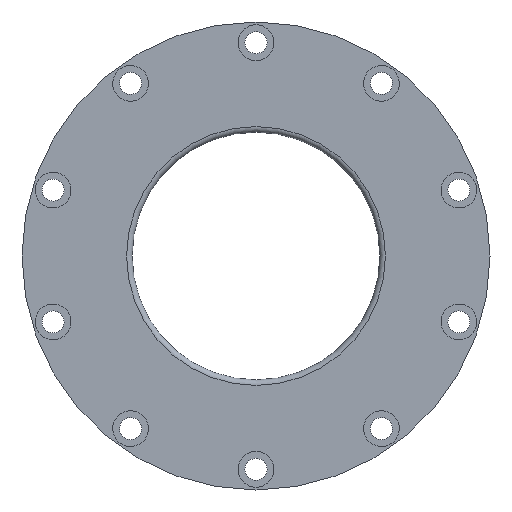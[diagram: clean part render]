
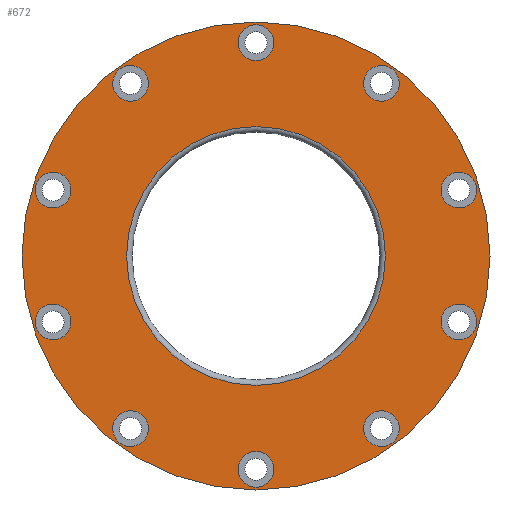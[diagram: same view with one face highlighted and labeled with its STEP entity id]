
A CAD part, front view. The second image highlights one B-rep face of the part: STEP entity #672.
In plain terms, the highlighted planar face has unit normal (0, -1, 0).
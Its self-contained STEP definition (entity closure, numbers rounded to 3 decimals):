
#102=FACE_BOUND('',#210,.T.);
#103=FACE_BOUND('',#211,.T.);
#104=FACE_BOUND('',#212,.T.);
#105=FACE_BOUND('',#213,.T.);
#106=FACE_BOUND('',#214,.T.);
#107=FACE_BOUND('',#215,.T.);
#108=FACE_BOUND('',#216,.T.);
#109=FACE_BOUND('',#217,.T.);
#110=FACE_BOUND('',#218,.T.);
#111=FACE_BOUND('',#219,.T.);
#112=FACE_BOUND('',#220,.T.);
#156=FACE_OUTER_BOUND('',#209,.T.);
#209=EDGE_LOOP('',(#554));
#210=EDGE_LOOP('',(#555));
#211=EDGE_LOOP('',(#556));
#212=EDGE_LOOP('',(#557));
#213=EDGE_LOOP('',(#558));
#214=EDGE_LOOP('',(#559));
#215=EDGE_LOOP('',(#560));
#216=EDGE_LOOP('',(#561));
#217=EDGE_LOOP('',(#562));
#218=EDGE_LOOP('',(#563));
#219=EDGE_LOOP('',(#564));
#220=EDGE_LOOP('',(#565));
#248=CIRCLE('',#709,6.5);
#252=CIRCLE('',#716,6.5);
#256=CIRCLE('',#723,6.5);
#260=CIRCLE('',#730,6.5);
#264=CIRCLE('',#737,6.5);
#268=CIRCLE('',#744,6.5);
#272=CIRCLE('',#751,6.5);
#276=CIRCLE('',#758,6.5);
#280=CIRCLE('',#765,6.5);
#284=CIRCLE('',#772,6.5);
#286=CIRCLE('',#776,85.);
#287=CIRCLE('',#777,47.);
#311=VERTEX_POINT('',#1056);
#315=VERTEX_POINT('',#1069);
#319=VERTEX_POINT('',#1082);
#323=VERTEX_POINT('',#1095);
#327=VERTEX_POINT('',#1108);
#331=VERTEX_POINT('',#1121);
#335=VERTEX_POINT('',#1134);
#339=VERTEX_POINT('',#1147);
#343=VERTEX_POINT('',#1160);
#347=VERTEX_POINT('',#1173);
#349=VERTEX_POINT('',#1181);
#350=VERTEX_POINT('',#1183);
#369=EDGE_CURVE('',#311,#311,#248,.T.);
#375=EDGE_CURVE('',#315,#315,#252,.T.);
#381=EDGE_CURVE('',#319,#319,#256,.T.);
#387=EDGE_CURVE('',#323,#323,#260,.T.);
#393=EDGE_CURVE('',#327,#327,#264,.T.);
#399=EDGE_CURVE('',#331,#331,#268,.T.);
#405=EDGE_CURVE('',#335,#335,#272,.T.);
#411=EDGE_CURVE('',#339,#339,#276,.T.);
#417=EDGE_CURVE('',#343,#343,#280,.T.);
#423=EDGE_CURVE('',#347,#347,#284,.T.);
#427=EDGE_CURVE('',#349,#349,#286,.T.);
#428=EDGE_CURVE('',#350,#350,#287,.T.);
#554=ORIENTED_EDGE('',*,*,#427,.T.);
#555=ORIENTED_EDGE('',*,*,#369,.T.);
#556=ORIENTED_EDGE('',*,*,#375,.T.);
#557=ORIENTED_EDGE('',*,*,#381,.T.);
#558=ORIENTED_EDGE('',*,*,#387,.T.);
#559=ORIENTED_EDGE('',*,*,#393,.T.);
#560=ORIENTED_EDGE('',*,*,#399,.T.);
#561=ORIENTED_EDGE('',*,*,#405,.T.);
#562=ORIENTED_EDGE('',*,*,#411,.T.);
#563=ORIENTED_EDGE('',*,*,#417,.T.);
#564=ORIENTED_EDGE('',*,*,#423,.T.);
#565=ORIENTED_EDGE('',*,*,#428,.F.);
#638=PLANE('',#775);
#672=ADVANCED_FACE('',(#156,#102,#103,#104,#105,#106,#107,#108,#109,#110,
#111,#112),#638,.T.);
#709=AXIS2_PLACEMENT_3D('',#1057,#821,#822);
#716=AXIS2_PLACEMENT_3D('',#1070,#837,#838);
#723=AXIS2_PLACEMENT_3D('',#1083,#853,#854);
#730=AXIS2_PLACEMENT_3D('',#1096,#869,#870);
#737=AXIS2_PLACEMENT_3D('',#1109,#885,#886);
#744=AXIS2_PLACEMENT_3D('',#1122,#901,#902);
#751=AXIS2_PLACEMENT_3D('',#1135,#917,#918);
#758=AXIS2_PLACEMENT_3D('',#1148,#933,#934);
#765=AXIS2_PLACEMENT_3D('',#1161,#949,#950);
#772=AXIS2_PLACEMENT_3D('',#1174,#965,#966);
#775=AXIS2_PLACEMENT_3D('',#1180,#973,#974);
#776=AXIS2_PLACEMENT_3D('',#1182,#975,#976);
#777=AXIS2_PLACEMENT_3D('',#1184,#977,#978);
#821=DIRECTION('center_axis',(0.,1.,0.));
#822=DIRECTION('ref_axis',(0.809,0.,-0.588));
#837=DIRECTION('center_axis',(0.,1.,0.));
#838=DIRECTION('ref_axis',(0.309,0.,-0.951));
#853=DIRECTION('center_axis',(0.,1.,0.));
#854=DIRECTION('ref_axis',(-0.309,0.,-0.951));
#869=DIRECTION('center_axis',(0.,1.,0.));
#870=DIRECTION('ref_axis',(-0.809,0.,-0.588));
#885=DIRECTION('center_axis',(0.,1.,0.));
#886=DIRECTION('ref_axis',(-1.,0.,0.));
#901=DIRECTION('center_axis',(0.,1.,0.));
#902=DIRECTION('ref_axis',(-0.809,0.,0.588));
#917=DIRECTION('center_axis',(0.,1.,0.));
#918=DIRECTION('ref_axis',(-0.309,0.,0.951));
#933=DIRECTION('center_axis',(0.,1.,0.));
#934=DIRECTION('ref_axis',(0.309,0.,0.951));
#949=DIRECTION('center_axis',(0.,1.,0.));
#950=DIRECTION('ref_axis',(0.809,0.,0.588));
#965=DIRECTION('center_axis',(0.,1.,0.));
#966=DIRECTION('ref_axis',(1.,0.,0.));
#973=DIRECTION('center_axis',(0.,-1.,0.));
#974=DIRECTION('ref_axis',(0.,0.,-1.));
#975=DIRECTION('center_axis',(0.,-1.,0.));
#976=DIRECTION('ref_axis',(1.,0.,0.));
#977=DIRECTION('center_axis',(0.,-1.,0.));
#978=DIRECTION('ref_axis',(1.,0.,0.));
#1056=CARTESIAN_POINT('',(40.295,-6.,66.519));
#1057=CARTESIAN_POINT('Origin',(45.553,-6.,62.699));
#1069=CARTESIAN_POINT('',(71.698,-6.,30.131));
#1070=CARTESIAN_POINT('Origin',(73.707,-6.,23.949));
#1082=CARTESIAN_POINT('',(75.715,-6.,-17.767));
#1083=CARTESIAN_POINT('Origin',(73.707,-6.,-23.949));
#1095=CARTESIAN_POINT('',(50.812,-6.,-58.878));
#1096=CARTESIAN_POINT('Origin',(45.553,-6.,-62.699));
#1108=CARTESIAN_POINT('',(6.5,-6.,-77.5));
#1109=CARTESIAN_POINT('Origin',(0.,-6.,
-77.5));
#1121=CARTESIAN_POINT('',(-40.295,-6.,-66.519));
#1122=CARTESIAN_POINT('Origin',(-45.553,-6.,-62.699));
#1134=CARTESIAN_POINT('',(-71.698,-6.,-30.131));
#1135=CARTESIAN_POINT('Origin',(-73.707,-6.,-23.949));
#1147=CARTESIAN_POINT('',(-75.715,-6.,17.767));
#1148=CARTESIAN_POINT('Origin',(-73.707,-6.,23.949));
#1160=CARTESIAN_POINT('',(-50.812,-6.,58.878));
#1161=CARTESIAN_POINT('Origin',(-45.553,-6.,62.699));
#1173=CARTESIAN_POINT('',(-6.5,-6.,77.5));
#1174=CARTESIAN_POINT('Origin',(0.,-6.,77.5));
#1180=CARTESIAN_POINT('Origin',(47.,-6.,0.));
#1181=CARTESIAN_POINT('',(-85.,-6.,0.));
#1182=CARTESIAN_POINT('Origin',(0.,-6.,0.));
#1183=CARTESIAN_POINT('',(0.,-6.,47.));
#1184=CARTESIAN_POINT('Origin',(0.,-6.,0.));
